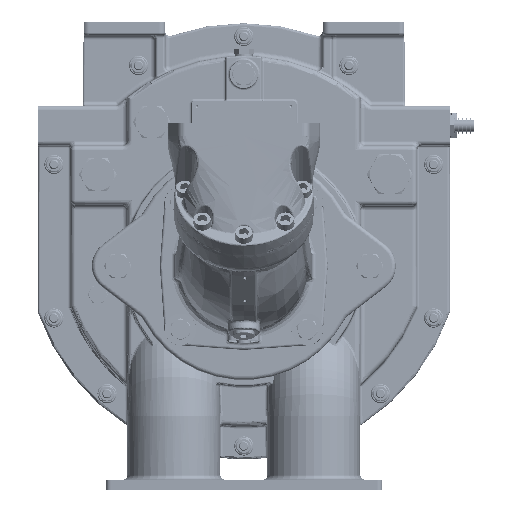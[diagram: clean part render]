
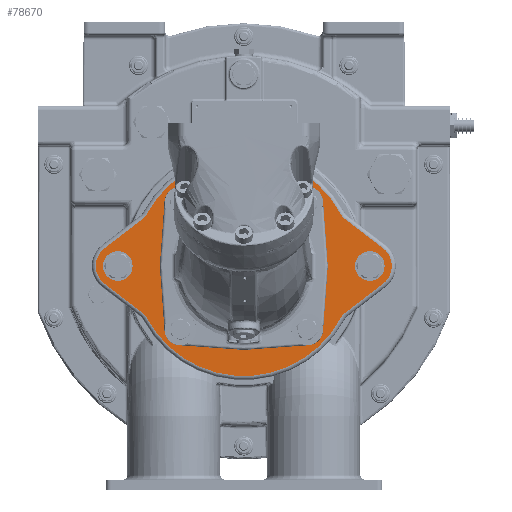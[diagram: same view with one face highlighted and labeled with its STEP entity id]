
A CAD part, left-side view. The second image highlights one B-rep face of the part: STEP entity #78670.
In plain terms, the highlighted planar face has unit normal (-1, 0, 0) as drawn and (0, 1, 0) by its records, which use the part's own axes.
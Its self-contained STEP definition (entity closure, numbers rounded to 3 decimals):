
#5605=FACE_BOUND('',#18945,.T.);
#5606=FACE_BOUND('',#18946,.T.);
#5607=FACE_BOUND('',#18947,.T.);
#5608=FACE_BOUND('',#18948,.T.);
#5609=FACE_BOUND('',#18949,.T.);
#5610=FACE_BOUND('',#18950,.T.);
#5611=FACE_BOUND('',#18951,.T.);
#10822=PLANE('',#85865);
#14018=FACE_OUTER_BOUND('',#18944,.T.);
#18944=EDGE_LOOP('',(#65066,#65067,#65068,#65069,#65070,#65071,#65072,#65073,
#65074,#65075,#65076,#65077));
#18945=EDGE_LOOP('',(#65078));
#18946=EDGE_LOOP('',(#65079));
#18947=EDGE_LOOP('',(#65080));
#18948=EDGE_LOOP('',(#65081));
#18949=EDGE_LOOP('',(#65082));
#18950=EDGE_LOOP('',(#65083));
#18951=EDGE_LOOP('',(#65084));
#23530=LINE('',#136668,#27745);
#23531=LINE('',#136672,#27746);
#23532=LINE('',#136680,#27747);
#23533=LINE('',#136684,#27748);
#27745=VECTOR('',#100961,10.);
#27746=VECTOR('',#100964,10.);
#27747=VECTOR('',#100971,10.);
#27748=VECTOR('',#100974,10.);
#32038=CIRCLE('',#85840,6.92);
#32040=CIRCLE('',#85843,6.92);
#32043=CIRCLE('',#85847,6.92);
#32045=CIRCLE('',#85850,6.92);
#32053=CIRCLE('',#85864,91.5);
#32054=CIRCLE('',#85866,137.5);
#32055=CIRCLE('',#85867,20.);
#32056=CIRCLE('',#85868,28.);
#32057=CIRCLE('',#85869,20.);
#32058=CIRCLE('',#85870,137.5);
#32059=CIRCLE('',#85871,20.);
#32060=CIRCLE('',#85872,28.);
#32061=CIRCLE('',#85873,20.);
#32062=CIRCLE('',#85874,18.5);
#32063=CIRCLE('',#85875,18.5);
#37585=VERTEX_POINT('',#136612);
#37586=VERTEX_POINT('',#136617);
#37588=VERTEX_POINT('',#136624);
#37589=VERTEX_POINT('',#136629);
#37597=VERTEX_POINT('',#136658);
#37598=VERTEX_POINT('',#136662);
#37599=VERTEX_POINT('',#136663);
#37600=VERTEX_POINT('',#136665);
#37601=VERTEX_POINT('',#136667);
#37602=VERTEX_POINT('',#136669);
#37603=VERTEX_POINT('',#136671);
#37604=VERTEX_POINT('',#136673);
#37605=VERTEX_POINT('',#136675);
#37606=VERTEX_POINT('',#136677);
#37607=VERTEX_POINT('',#136679);
#37608=VERTEX_POINT('',#136681);
#37609=VERTEX_POINT('',#136683);
#37610=VERTEX_POINT('',#136686);
#37611=VERTEX_POINT('',#136688);
#47176=EDGE_CURVE('',#37585,#37585,#32038,.T.);
#47179=EDGE_CURVE('',#37586,#37586,#32040,.T.);
#47183=EDGE_CURVE('',#37588,#37588,#32043,.T.);
#47186=EDGE_CURVE('',#37589,#37589,#32045,.T.);
#47201=EDGE_CURVE('',#37597,#37597,#32053,.T.);
#47203=EDGE_CURVE('',#37598,#37599,#32054,.T.);
#47204=EDGE_CURVE('',#37600,#37598,#32055,.T.);
#47205=EDGE_CURVE('',#37601,#37600,#23530,.T.);
#47206=EDGE_CURVE('',#37602,#37601,#32056,.T.);
#47207=EDGE_CURVE('',#37603,#37602,#23531,.T.);
#47208=EDGE_CURVE('',#37604,#37603,#32057,.T.);
#47209=EDGE_CURVE('',#37605,#37604,#32058,.T.);
#47210=EDGE_CURVE('',#37606,#37605,#32059,.T.);
#47211=EDGE_CURVE('',#37607,#37606,#23532,.T.);
#47212=EDGE_CURVE('',#37608,#37607,#32060,.T.);
#47213=EDGE_CURVE('',#37609,#37608,#23533,.T.);
#47214=EDGE_CURVE('',#37599,#37609,#32061,.T.);
#47215=EDGE_CURVE('',#37610,#37610,#32062,.T.);
#47216=EDGE_CURVE('',#37611,#37611,#32063,.T.);
#65066=ORIENTED_EDGE('',*,*,#47203,.F.);
#65067=ORIENTED_EDGE('',*,*,#47204,.F.);
#65068=ORIENTED_EDGE('',*,*,#47205,.F.);
#65069=ORIENTED_EDGE('',*,*,#47206,.F.);
#65070=ORIENTED_EDGE('',*,*,#47207,.F.);
#65071=ORIENTED_EDGE('',*,*,#47208,.F.);
#65072=ORIENTED_EDGE('',*,*,#47209,.F.);
#65073=ORIENTED_EDGE('',*,*,#47210,.F.);
#65074=ORIENTED_EDGE('',*,*,#47211,.F.);
#65075=ORIENTED_EDGE('',*,*,#47212,.F.);
#65076=ORIENTED_EDGE('',*,*,#47213,.F.);
#65077=ORIENTED_EDGE('',*,*,#47214,.F.);
#65078=ORIENTED_EDGE('',*,*,#47215,.T.);
#65079=ORIENTED_EDGE('',*,*,#47216,.T.);
#65080=ORIENTED_EDGE('',*,*,#47201,.F.);
#65081=ORIENTED_EDGE('',*,*,#47186,.T.);
#65082=ORIENTED_EDGE('',*,*,#47183,.T.);
#65083=ORIENTED_EDGE('',*,*,#47179,.T.);
#65084=ORIENTED_EDGE('',*,*,#47176,.T.);
#78670=ADVANCED_FACE('',(#14018,#5605,#5606,#5607,#5608,#5609,#5610,#5611),
#10822,.T.);
#85840=AXIS2_PLACEMENT_3D('',#136613,#100894,#100895);
#85843=AXIS2_PLACEMENT_3D('',#136618,#100901,#100902);
#85847=AXIS2_PLACEMENT_3D('',#136625,#100910,#100911);
#85850=AXIS2_PLACEMENT_3D('',#136630,#100917,#100918);
#85864=AXIS2_PLACEMENT_3D('',#136659,#100952,#100953);
#85865=AXIS2_PLACEMENT_3D('',#136661,#100955,#100956);
#85866=AXIS2_PLACEMENT_3D('',#136664,#100957,#100958);
#85867=AXIS2_PLACEMENT_3D('',#136666,#100959,#100960);
#85868=AXIS2_PLACEMENT_3D('',#136670,#100962,#100963);
#85869=AXIS2_PLACEMENT_3D('',#136674,#100965,#100966);
#85870=AXIS2_PLACEMENT_3D('',#136676,#100967,#100968);
#85871=AXIS2_PLACEMENT_3D('',#136678,#100969,#100970);
#85872=AXIS2_PLACEMENT_3D('',#136682,#100972,#100973);
#85873=AXIS2_PLACEMENT_3D('',#136685,#100975,#100976);
#85874=AXIS2_PLACEMENT_3D('',#136687,#100977,#100978);
#85875=AXIS2_PLACEMENT_3D('',#136689,#100979,#100980);
#100894=DIRECTION('center_axis',(0.,-1.,0.));
#100895=DIRECTION('ref_axis',(-1.,0.,0.));
#100901=DIRECTION('center_axis',(0.,-1.,0.));
#100902=DIRECTION('ref_axis',(-1.,0.,0.));
#100910=DIRECTION('center_axis',(0.,-1.,0.));
#100911=DIRECTION('ref_axis',(-1.,0.,0.));
#100917=DIRECTION('center_axis',(0.,-1.,0.));
#100918=DIRECTION('ref_axis',(-1.,0.,0.));
#100952=DIRECTION('center_axis',(0.,1.,0.));
#100953=DIRECTION('ref_axis',(1.,0.,0.));
#100955=DIRECTION('center_axis',(0.,1.,0.));
#100956=DIRECTION('ref_axis',(-1.,0.,0.));
#100957=DIRECTION('center_axis',(0.,-1.,0.));
#100958=DIRECTION('ref_axis',(0.,0.,1.));
#100959=DIRECTION('center_axis',(0.,1.,0.));
#100960=DIRECTION('ref_axis',(-0.762,0.,-0.648));
#100961=DIRECTION('',(-0.793,0.,0.609));
#100962=DIRECTION('center_axis',(0.,-1.,0.));
#100963=DIRECTION('ref_axis',(1.,0.,0.));
#100964=DIRECTION('',(0.793,0.,0.609));
#100965=DIRECTION('center_axis',(0.,1.,0.));
#100966=DIRECTION('ref_axis',(-0.762,0.,0.648));
#100967=DIRECTION('center_axis',(0.,-1.,0.));
#100968=DIRECTION('ref_axis',(0.,0.,-1.));
#100969=DIRECTION('center_axis',(0.,1.,0.));
#100970=DIRECTION('ref_axis',(0.762,0.,0.648));
#100971=DIRECTION('',(0.793,0.,-0.609));
#100972=DIRECTION('center_axis',(0.,-1.,0.));
#100973=DIRECTION('ref_axis',(-1.,0.,0.));
#100974=DIRECTION('',(-0.793,0.,-0.609));
#100975=DIRECTION('center_axis',(0.,1.,0.));
#100976=DIRECTION('ref_axis',(0.762,0.,-0.648));
#100977=DIRECTION('center_axis',(0.,-1.,0.));
#100978=DIRECTION('ref_axis',(-1.,0.,0.));
#100979=DIRECTION('center_axis',(0.,-1.,0.));
#100980=DIRECTION('ref_axis',(-1.,0.,0.));
#136612=CARTESIAN_POINT('',(86.12,294.,79.2));
#136613=CARTESIAN_POINT('Origin',(79.2,294.,79.2));
#136617=CARTESIAN_POINT('',(-72.28,294.,79.2));
#136618=CARTESIAN_POINT('Origin',(-79.2,294.,79.2));
#136624=CARTESIAN_POINT('',(86.12,294.,-79.2));
#136625=CARTESIAN_POINT('Origin',(79.2,294.,-79.2));
#136629=CARTESIAN_POINT('',(-72.28,294.,-79.2));
#136630=CARTESIAN_POINT('Origin',(-79.2,294.,-79.2));
#136658=CARTESIAN_POINT('',(-91.5,294.,0.));
#136659=CARTESIAN_POINT('Origin',(0.,294.,0.));
#136661=CARTESIAN_POINT('Origin',(0.,294.,0.));
#136662=CARTESIAN_POINT('',(121.15,294.,65.031));
#136663=CARTESIAN_POINT('',(-121.15,294.,65.031));
#136664=CARTESIAN_POINT('Origin',(0.,294.,0.));
#136665=CARTESIAN_POINT('',(126.596,294.,58.623));
#136666=CARTESIAN_POINT('Origin',(138.771,294.,74.49));
#136667=CARTESIAN_POINT('',(174.045,294.,22.214));
#136668=CARTESIAN_POINT('',(124.637,294.,60.126));
#136669=CARTESIAN_POINT('',(174.045,294.,-22.214));
#136670=CARTESIAN_POINT('Origin',(157.,294.,0.));
#136671=CARTESIAN_POINT('',(126.596,294.,-58.623));
#136672=CARTESIAN_POINT('',(99.599,294.,-79.339));
#136673=CARTESIAN_POINT('',(121.15,294.,-65.031));
#136674=CARTESIAN_POINT('Origin',(138.771,294.,-74.49));
#136675=CARTESIAN_POINT('',(-121.15,294.,-65.031));
#136676=CARTESIAN_POINT('Origin',(0.,294.,0.));
#136677=CARTESIAN_POINT('',(-126.596,294.,-58.623));
#136678=CARTESIAN_POINT('Origin',(-138.771,294.,-74.49));
#136679=CARTESIAN_POINT('',(-174.045,294.,-22.214));
#136680=CARTESIAN_POINT('',(-124.637,294.,-60.126));
#136681=CARTESIAN_POINT('',(-174.045,294.,22.214));
#136682=CARTESIAN_POINT('Origin',(-157.,294.,0.));
#136683=CARTESIAN_POINT('',(-126.596,294.,58.623));
#136684=CARTESIAN_POINT('',(-99.599,294.,79.339));
#136685=CARTESIAN_POINT('Origin',(-138.771,294.,74.49));
#136686=CARTESIAN_POINT('',(-139.,294.,0.));
#136687=CARTESIAN_POINT('Origin',(-157.5,294.,0.));
#136688=CARTESIAN_POINT('',(176.,294.,0.));
#136689=CARTESIAN_POINT('Origin',(157.5,294.,0.));
